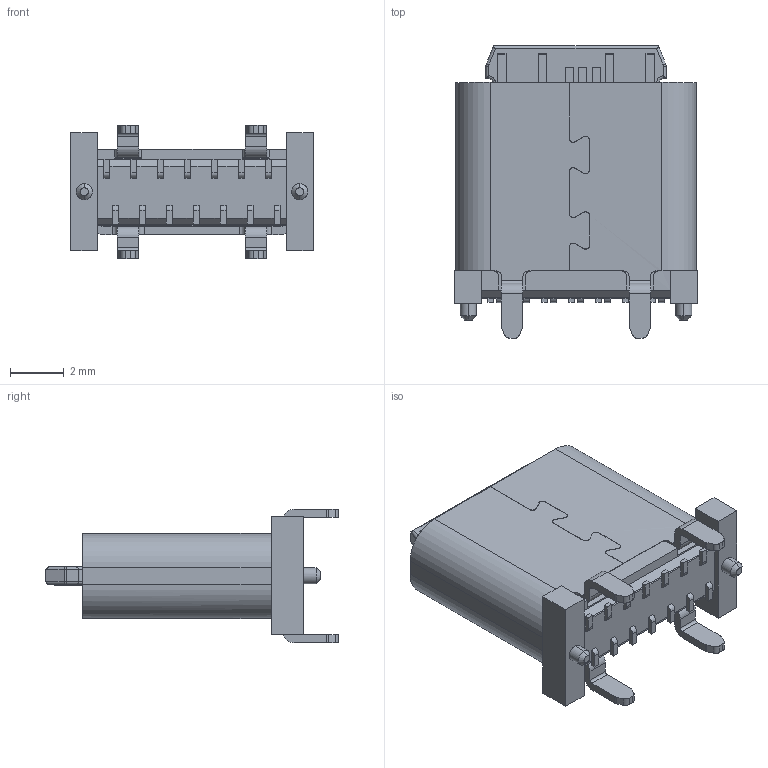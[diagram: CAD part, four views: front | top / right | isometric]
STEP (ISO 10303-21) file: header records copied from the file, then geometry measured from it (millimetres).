
FILE_DESCRIPTION (( 'STEP AP214' ), '1' );
FILE_NAME ('TYPE-C 14PIN 母座 立贴 H=8.2 一体式3D.STEP', '2021-09-08T11:57:04', ( '微软用户' ), ( '微软中国' ), 'SwSTEP 2.0', 'SolidWorks 2012', '' );
FILE_SCHEMA (( 'AUTOMOTIVE_DESIGN' ));
Length unit declared in the file: millimetre
Products named in the file (1): TYPE-C 14PIN 譫釱 蕾泂  H=8.2 珨极宒3D
Bounding box: 9 x 10.87 x 4.96 mm (x, y, z)
Volume: 178.1 mm3; surface area: 575.5 mm2
Topology: 1 solids, 5 shells, 502 faces, 1384 edges, 893 vertices
Faces by surface type: plane 328, cylinder 145, cone 15, bspline 8, torus 6
Entity records: 16243 total; most frequent: CARTESIAN_POINT 3443, ORIENTED_EDGE 2768, DIRECTION 2547, EDGE_CURVE 1384, VECTOR 1007, LINE 1007, VERTEX_POINT 893, AXIS2_PLACEMENT_3D 770
